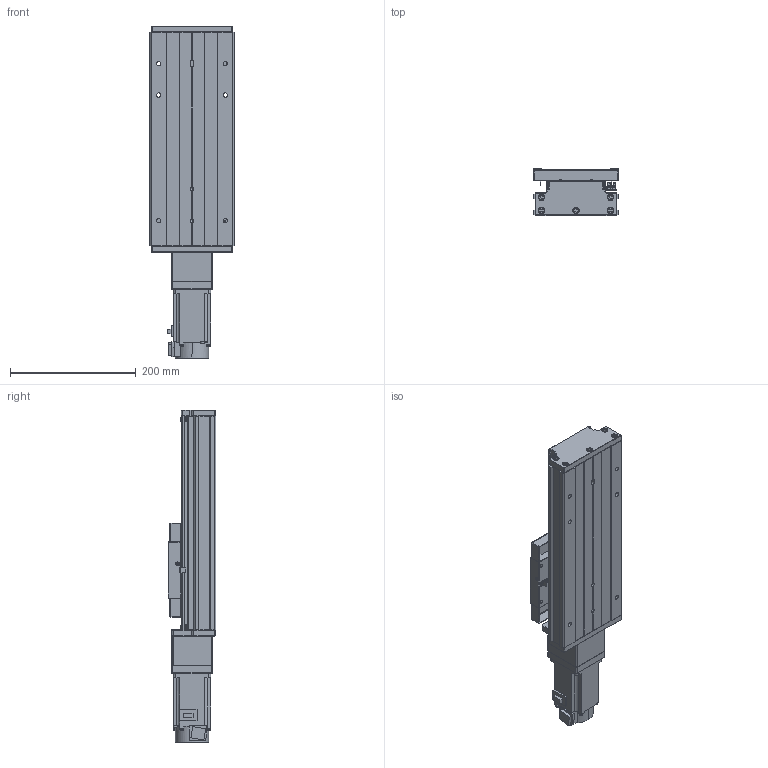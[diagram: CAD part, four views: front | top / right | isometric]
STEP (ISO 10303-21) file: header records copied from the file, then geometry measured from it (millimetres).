
FILE_DESCRIPTION (( 'STEP AP203' ), '1' );
FILE_NAME ('CTH130-150-BC-M40-C4.step', '2023-06-30T02:32:06', ( '微软用户' ), ( '微软中国' ), 'SwSTEP 2.0', 'SolidWorks 2020', '' );
FILE_SCHEMA (( 'CONFIG_CONTROL_DESIGN' ));
Length unit declared in the file: millimetre
Products named in the file (21): CTHA86-013; GTH14-004; GBT 70.1-M3℅5; CTHA86-027-1; GTH14-005; GBT77-2000 M3×3; GBT 70.3-M3℅8; GB1155-6X6; CTH130-031; HG-KN43J-S100; GBT70.1 M5℅16; GBT 70.2-M3¡Á5_M3¡Á6; CTH130-150-BC-M40-C4; GTH14-001_150; CTHA60-017; す晦芛蹟隊 M3℅5; CTH130-002_GTH14-002; EE_SX911P_R; CTHA86-006-1_M40; GB T308.1-2013-6.35; CTHA60-016
Assembly tree (59 placements, depth 2):
  CTH130-150-BC-M40-C4
    GTH14-001_150
    CTH130-002_GTH14-002
    GB T308.1-2013-6.35  x2
    GTH14-004
    GTH14-005
    GB1155-6X6  x2
    GBT70.1 M5℅16  x10
    CTHA60-017  x3
    EE_SX911P_R  x3
    CTHA60-016  x2
    GBT 70.1-M3℅5  x6
    GBT77-2000 M3×3  x6
    CTH130-031
    GBT 70.2-M3¡Á5_M3¡Á6  x8
    す晦芛蹟隊 M3℅5  x6
    CTHA86-006-1_M40
    CTHA86-013
    CTHA86-027-1
    GBT 70.3-M3℅8  x2
    HG-KN43J-S100
Bounding box: 135 x 76 x 528.7 mm (x, y, z)
Volume: 2564662.6 mm3; surface area: 459462 mm2
Topology: 62 solids, 62 shells, 2360 faces, 5633 edges, 3487 vertices
Faces by surface type: plane 1299, cylinder 610, cone 287, torus 120, sphere 24, bspline 20
Entity records: 43064 total; most frequent: CARTESIAN_POINT 9705, DIRECTION 6211, ORIENTED_EDGE 6166, EDGE_CURVE 3083, AXIS2_PLACEMENT_3D 2089, LINE 2033, VECTOR 2033, VERTEX_POINT 1947
